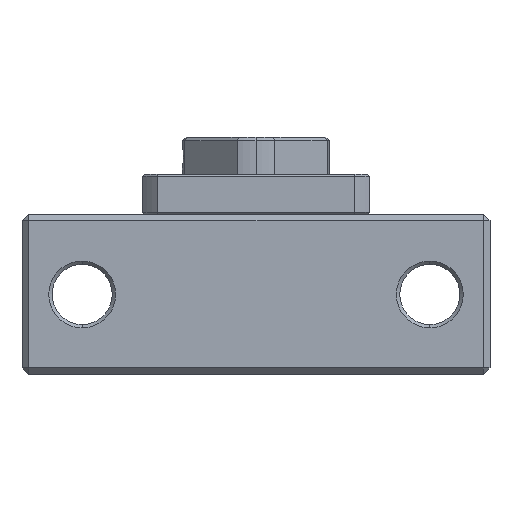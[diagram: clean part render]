
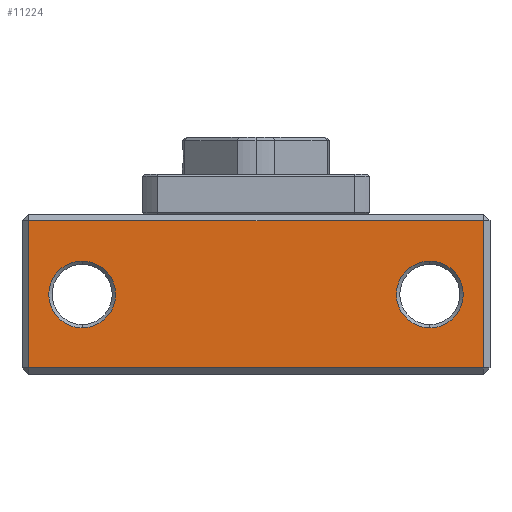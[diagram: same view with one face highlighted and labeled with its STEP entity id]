
A CAD part, front view. The second image highlights one B-rep face of the part: STEP entity #11224.
In plain terms, the highlighted planar face has unit normal (0, -1, 0).
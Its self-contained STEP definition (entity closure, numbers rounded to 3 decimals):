
#4798 = CARTESIAN_POINT ( 'NONE',  ( 26., 0., 5. ) ) ;
#4833 = CARTESIAN_POINT ( 'NONE',  ( 26., 0., -5. ) ) ;
#4873 = DIRECTION ( 'NONE',  ( -1., 0., 0. ) ) ;
#4874 = DIRECTION ( 'NONE',  ( 0., 1., 0. ) ) ;
#4875 = CARTESIAN_POINT ( 'NONE',  ( 26., 0., 0. ) ) ;
#4876 = AXIS2_PLACEMENT_3D ( 'NONE', #4875, #4874, #4873 ) ;
#4877 = CIRCLE ( 'NONE', #4876, 5. ) ;
#5240 = CARTESIAN_POINT ( 'NONE',  ( -26., 0., -5. ) ) ;
#5241 = CARTESIAN_POINT ( 'NONE',  ( -26., 0., 5. ) ) ;
#5246 = DIRECTION ( 'NONE',  ( -1., 0., 0. ) ) ;
#5247 = DIRECTION ( 'NONE',  ( 0., 1., 0. ) ) ;
#5248 = CARTESIAN_POINT ( 'NONE',  ( -26., 0., 0. ) ) ;
#5249 = AXIS2_PLACEMENT_3D ( 'NONE', #5248, #5247, #5246 ) ;
#5250 = CIRCLE ( 'NONE', #5249, 5. ) ;
#6895 = CIRCLE ( 'NONE', #6955, 5. ) ;
#6952 = DIRECTION ( 'NONE',  ( -1., 0., 0. ) ) ;
#6953 = DIRECTION ( 'NONE',  ( 0., 1., 0. ) ) ;
#6954 = CARTESIAN_POINT ( 'NONE',  ( 26., 0., 0. ) ) ;
#6955 = AXIS2_PLACEMENT_3D ( 'NONE', #6954, #6953, #6952 ) ;
#7017 = CARTESIAN_POINT ( 'NONE',  ( -35., 0., -11. ) ) ;
#7023 = LINE ( 'NONE', #7017, #7080 ) ;
#7025 = DIRECTION ( 'NONE',  ( 0., 0., 1. ) ) ;
#7026 = VECTOR ( 'NONE', #7025, 1000. ) ;
#7027 = CARTESIAN_POINT ( 'NONE',  ( 34., 0., 12. ) ) ;
#7028 = LINE ( 'NONE', #7027, #7026 ) ;
#7033 = CARTESIAN_POINT ( 'NONE',  ( 34., 0., -11. ) ) ;
#7035 = DIRECTION ( 'NONE',  ( -1., 0., 0. ) ) ;
#7036 = VECTOR ( 'NONE', #7035, 1000. ) ;
#7037 = CARTESIAN_POINT ( 'NONE',  ( -35., 0., 11. ) ) ;
#7038 = LINE ( 'NONE', #7037, #7036 ) ;
#7049 = DIRECTION ( 'NONE',  ( -1., 0., 0. ) ) ;
#7050 = DIRECTION ( 'NONE',  ( 0., 1., 0. ) ) ;
#7051 = CARTESIAN_POINT ( 'NONE',  ( -35., 0., 12. ) ) ;
#7052 = AXIS2_PLACEMENT_3D ( 'NONE', #7051, #7050, #7049 ) ;
#7053 = PLANE ( 'NONE',  #7052 ) ;
#7054 = FACE_OUTER_BOUND ( 'NONE', #11200, .T. ) ;
#7055 = FACE_BOUND ( 'NONE', #11199, .T. ) ;
#7056 = FACE_BOUND ( 'NONE', #11216, .T. ) ;
#7059 = CARTESIAN_POINT ( 'NONE',  ( -34., 0., -11. ) ) ;
#7060 = DIRECTION ( 'NONE',  ( 0., 0., -1. ) ) ;
#7061 = VECTOR ( 'NONE', #7060, 1000. ) ;
#7062 = CARTESIAN_POINT ( 'NONE',  ( -34., 0., 12. ) ) ;
#7063 = LINE ( 'NONE', #7062, #7061 ) ;
#7064 = CARTESIAN_POINT ( 'NONE',  ( -34., 0., 11. ) ) ;
#7069 = DIRECTION ( 'NONE',  ( -1., 0., 0. ) ) ;
#7070 = DIRECTION ( 'NONE',  ( 0., 1., 0. ) ) ;
#7071 = CARTESIAN_POINT ( 'NONE',  ( -26., 0., 0. ) ) ;
#7072 = AXIS2_PLACEMENT_3D ( 'NONE', #7071, #7070, #7069 ) ;
#7073 = CIRCLE ( 'NONE', #7072, 5. ) ;
#7078 = CARTESIAN_POINT ( 'NONE',  ( 34., 0., 11. ) ) ;
#7079 = DIRECTION ( 'NONE',  ( 1., 0., 0. ) ) ;
#7080 = VECTOR ( 'NONE', #7079, 1000. ) ;
#11082 = EDGE_CURVE ( 'NONE', #18751, #18765, #6895, .T. ) ;
#11176 = EDGE_CURVE ( 'NONE', #11193, #11207, #7038, .T. ) ;
#11180 = VERTEX_POINT ( 'NONE', #7033 ) ;
#11183 = ORIENTED_EDGE ( 'NONE', *, *, #11184, .T. ) ;
#11184 = EDGE_CURVE ( 'NONE', #11180, #11193, #7028, .T. ) ;
#11186 = ORIENTED_EDGE ( 'NONE', *, *, #11176, .T. ) ;
#11190 = EDGE_CURVE ( 'NONE', #11211, #11180, #7023, .T. ) ;
#11191 = ORIENTED_EDGE ( 'NONE', *, *, #11190, .T. ) ;
#11193 = VERTEX_POINT ( 'NONE', #7078 ) ;
#11198 = EDGE_CURVE ( 'NONE', #19007, #19008, #7073, .T. ) ;
#11199 = EDGE_LOOP ( 'NONE', ( #11218, #11220 ) ) ;
#11200 = EDGE_LOOP ( 'NONE', ( #11206, #11191, #11183, #11186 ) ) ;
#11203 = ORIENTED_EDGE ( 'NONE', *, *, #19004, .T. ) ;
#11205 = ORIENTED_EDGE ( 'NONE', *, *, #11198, .T. ) ;
#11206 = ORIENTED_EDGE ( 'NONE', *, *, #11209, .T. ) ;
#11207 = VERTEX_POINT ( 'NONE', #7064 ) ;
#11209 = EDGE_CURVE ( 'NONE', #11207, #11211, #7063, .T. ) ;
#11211 = VERTEX_POINT ( 'NONE', #7059 ) ;
#11216 = EDGE_LOOP ( 'NONE', ( #11203, #11205 ) ) ;
#11218 = ORIENTED_EDGE ( 'NONE', *, *, #18774, .T. ) ;
#11220 = ORIENTED_EDGE ( 'NONE', *, *, #11082, .T. ) ;
#11224 = ADVANCED_FACE ( 'NONE', ( #7056, #7055, #7054 ), #7053, .F. ) ;
#18751 = VERTEX_POINT ( 'NONE', #4798 ) ;
#18765 = VERTEX_POINT ( 'NONE', #4833 ) ;
#18774 = EDGE_CURVE ( 'NONE', #18765, #18751, #4877, .T. ) ;
#19004 = EDGE_CURVE ( 'NONE', #19008, #19007, #5250, .T. ) ;
#19007 = VERTEX_POINT ( 'NONE', #5241 ) ;
#19008 = VERTEX_POINT ( 'NONE', #5240 ) ;
